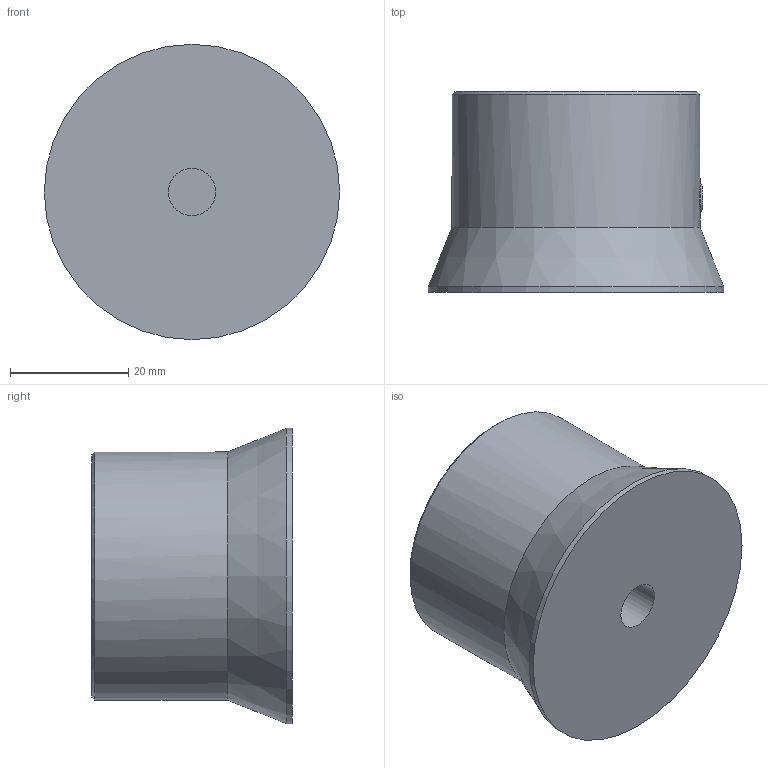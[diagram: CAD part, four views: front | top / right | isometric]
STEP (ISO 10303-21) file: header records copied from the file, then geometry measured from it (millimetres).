
FILE_DESCRIPTION( ( 'STEP AP203' ), '1' );
FILE_NAME( 'C:/Temp/Ganter_Step_05_03_2020/data/1_4/gn_726_2/gn_726_2_a/gn_726_2_a_1/Control knob GN 726.2-42-B8-A-1.stp', '2020-03-05T10:49:59', ( 'License CC BY-ND 4.0' ), ( 'CADENAS' ), ' ', 'PARTsolutions', ' ' );
FILE_SCHEMA( ( 'CONFIG_CONTROL_DESIGN' ) );
Length unit declared in the file: millimetre
Products named in the file (1): _Control knob GN 726.2-42-B8-A-1
Bounding box: 50 x 34 x 50 mm (x, y, z)
Volume: 48484.4 mm3; surface area: 8898.5 mm2
Topology: 1 solids, 1 shells, 138 faces, 395 edges, 262 vertices
Faces by surface type: cylinder 85, plane 39, cone 14
Full cylindrical faces by diameter (mm): 8 x1, 42 x1, 50 x1
Entity records: 4808 total; most frequent: CARTESIAN_POINT 1238, ORIENTED_EDGE 774, DIRECTION 712, EDGE_CURVE 387, AXIS2_PLACEMENT_3D 280, VERTEX_POINT 260, LINE 152, VECTOR 152
